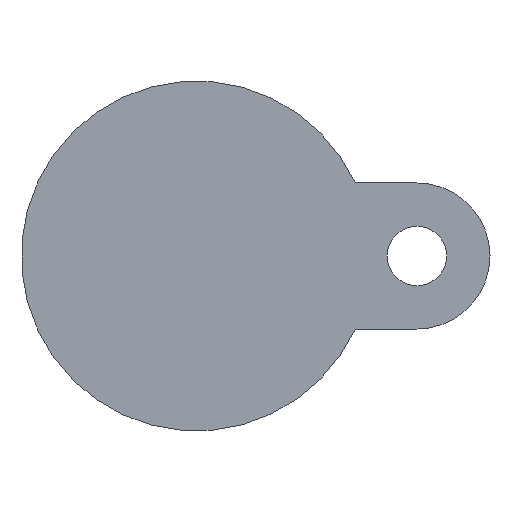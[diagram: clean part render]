
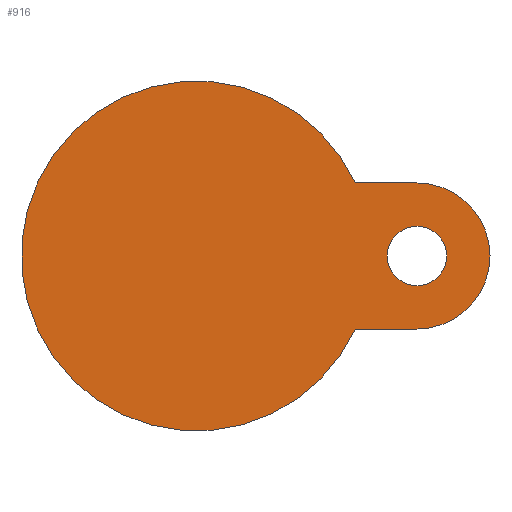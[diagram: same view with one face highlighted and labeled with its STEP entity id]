
A CAD part, front view. The second image highlights one B-rep face of the part: STEP entity #916.
In plain terms, the highlighted planar face has unit normal (0, -1, 0).
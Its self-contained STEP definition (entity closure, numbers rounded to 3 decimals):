
#160 = VERTEX_POINT ( 'NONE', #1447 ) ;
#272 = CARTESIAN_POINT ( 'NONE',  ( 36.5, -28., 21.5 ) ) ;
#397 = EDGE_CURVE ( 'NONE', #4376, #160, #4181, .T. ) ;
#425 = ORIENTED_EDGE ( 'NONE', *, *, #3077, .T. ) ;
#430 = CARTESIAN_POINT ( 'NONE',  ( 65., -28., -21.5 ) ) ;
#437 = LINE ( 'NONE', #1451, #2017 ) ;
#545 = DIRECTION ( 'NONE',  ( 1., 0., 0. ) ) ;
#616 = LINE ( 'NONE', #272, #3017 ) ;
#791 = AXIS2_PLACEMENT_3D ( 'NONE', #837, #2183, #3482 ) ;
#801 = VERTEX_POINT ( 'NONE', #430 ) ;
#837 = CARTESIAN_POINT ( 'NONE',  ( 65., -28., 0. ) ) ;
#862 = CARTESIAN_POINT ( 'NONE',  ( 65., -28., 0. ) ) ;
#880 = DIRECTION ( 'NONE',  ( 1., 0., 0. ) ) ;
#915 = CARTESIAN_POINT ( 'NONE',  ( 65., -28., 21.5 ) ) ;
#916 = ADVANCED_FACE ( 'NONE', ( #4301, #3547 ), #3913, .T. ) ;
#1019 = AXIS2_PLACEMENT_3D ( 'NONE', #1480, #3597, #880 ) ;
#1076 = CIRCLE ( 'NONE', #3243, 21.5 ) ;
#1142 = VERTEX_POINT ( 'NONE', #2015 ) ;
#1447 = CARTESIAN_POINT ( 'NONE',  ( 73.75, -28., 0. ) ) ;
#1451 = CARTESIAN_POINT ( 'NONE',  ( 36.5, -28., -21.5 ) ) ;
#1480 = CARTESIAN_POINT ( 'NONE',  ( 51.5, -28., 0. ) ) ;
#1701 = CARTESIAN_POINT ( 'NONE',  ( 65., -28., 0. ) ) ;
#1792 = AXIS2_PLACEMENT_3D ( 'NONE', #3960, #2254, #545 ) ;
#1897 = DIRECTION ( 'NONE',  ( 0., 1., 0. ) ) ;
#2015 = CARTESIAN_POINT ( 'NONE',  ( 46.797, -28., 21.5 ) ) ;
#2017 = VECTOR ( 'NONE', #2844, 1000. ) ;
#2078 = CIRCLE ( 'NONE', #791, 8.75 ) ;
#2183 = DIRECTION ( 'NONE',  ( 0., 1., 0. ) ) ;
#2254 = DIRECTION ( 'NONE',  ( 0., -1., 0. ) ) ;
#2396 = EDGE_CURVE ( 'NONE', #1142, #2809, #616, .T. ) ;
#2425 = ORIENTED_EDGE ( 'NONE', *, *, #3647, .F. ) ;
#2454 = VERTEX_POINT ( 'NONE', #4349 ) ;
#2483 = ORIENTED_EDGE ( 'NONE', *, *, #2396, .F. ) ;
#2489 = EDGE_LOOP ( 'NONE', ( #2871, #425 ) ) ;
#2736 = DIRECTION ( 'NONE',  ( 0., 1., 0. ) ) ;
#2809 = VERTEX_POINT ( 'NONE', #915 ) ;
#2844 = DIRECTION ( 'NONE',  ( -1., 0., 0. ) ) ;
#2855 = CARTESIAN_POINT ( 'NONE',  ( 56.25, -28., 0. ) ) ;
#2871 = ORIENTED_EDGE ( 'NONE', *, *, #397, .T. ) ;
#2934 = DIRECTION ( 'NONE',  ( -1., 0., 0. ) ) ;
#3017 = VECTOR ( 'NONE', #3690, 1000. ) ;
#3077 = EDGE_CURVE ( 'NONE', #160, #4376, #2078, .T. ) ;
#3085 = EDGE_LOOP ( 'NONE', ( #3854, #2425, #3274, #2483 ) ) ;
#3238 = CIRCLE ( 'NONE', #1792, 51.5 ) ;
#3243 = AXIS2_PLACEMENT_3D ( 'NONE', #1701, #2736, #3428 ) ;
#3274 = ORIENTED_EDGE ( 'NONE', *, *, #3520, .F. ) ;
#3287 = EDGE_CURVE ( 'NONE', #1142, #2454, #3238, .T. ) ;
#3428 = DIRECTION ( 'NONE',  ( 1., 0., 0. ) ) ;
#3482 = DIRECTION ( 'NONE',  ( -1., 0., 0. ) ) ;
#3520 = EDGE_CURVE ( 'NONE', #2809, #801, #1076, .T. ) ;
#3547 = FACE_OUTER_BOUND ( 'NONE', #3085, .T. ) ;
#3597 = DIRECTION ( 'NONE',  ( 0., -1., 0. ) ) ;
#3647 = EDGE_CURVE ( 'NONE', #801, #2454, #437, .T. ) ;
#3690 = DIRECTION ( 'NONE',  ( 1., 0., 0. ) ) ;
#3746 = AXIS2_PLACEMENT_3D ( 'NONE', #862, #1897, #2934 ) ;
#3854 = ORIENTED_EDGE ( 'NONE', *, *, #3287, .T. ) ;
#3913 = PLANE ( 'NONE',  #1019 ) ;
#3960 = CARTESIAN_POINT ( 'NONE',  ( 0., -28., 0. ) ) ;
#4181 = CIRCLE ( 'NONE', #3746, 8.75 ) ;
#4301 = FACE_BOUND ( 'NONE', #2489, .T. ) ;
#4349 = CARTESIAN_POINT ( 'NONE',  ( 46.797, -28., -21.5 ) ) ;
#4376 = VERTEX_POINT ( 'NONE', #2855 ) ;
